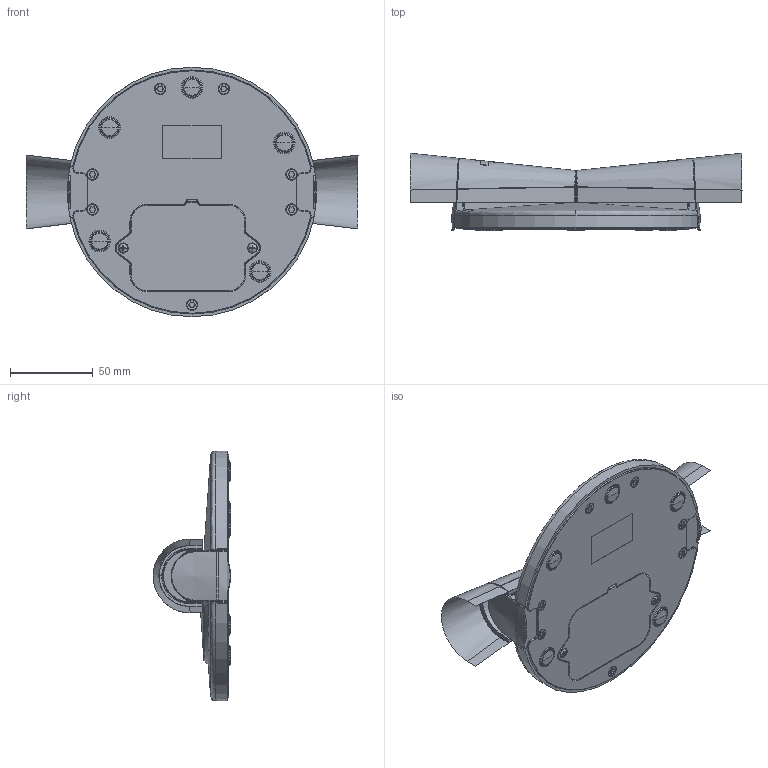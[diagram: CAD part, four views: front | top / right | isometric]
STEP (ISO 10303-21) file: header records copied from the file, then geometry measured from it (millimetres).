
FILE_DESCRIPTION((''),'2;1');
FILE_NAME('05801W4001','2019-09-12T15:48:00',('cnlw'),(''),'CREO PARAMETRIC BY PTC INC, 2018400','CREO PARAMETRIC BY PTC INC, 2018400','');
FILE_SCHEMA(('CONFIG_CONTROL_DESIGN','SHAPE_APPEARANCE_LAYERS_GROUPS'));
Length unit declared in the file: millimetre
Products named in the file (1): 05801W4001
Bounding box: 200 x 46.67 x 150.35 mm (x, y, z)
Volume: 319685 mm3; surface area: 181209.4 mm2
Topology: 6 solids, 42 shells, 979 faces, 2685 edges, 1786 vertices
Faces by surface type: plane 339, cylinder 330, bspline 121, torus 104, cone 48, sphere 17, extrusion 16, revolution 4
Entity records: 42555 total; most frequent: CARTESIAN_POINT 18358, ORIENTED_EDGE 5110, DIRECTION 4639, EDGE_CURVE 2668, VERTEX_POINT 1786, AXIS2_PLACEMENT_3D 1744, VECTOR 1147, LINE 1131
